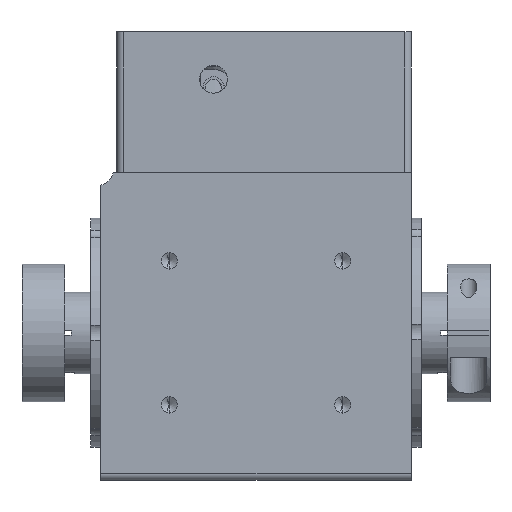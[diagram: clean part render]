
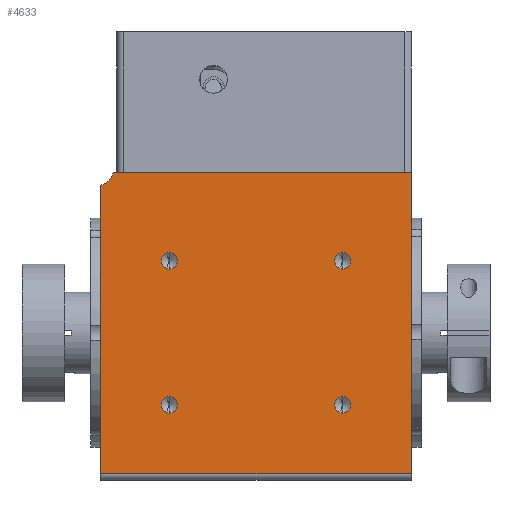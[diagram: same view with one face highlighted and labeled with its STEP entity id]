
A CAD part, front view. The second image highlights one B-rep face of the part: STEP entity #4633.
In plain terms, the highlighted planar face has unit normal (0, -1, 0).
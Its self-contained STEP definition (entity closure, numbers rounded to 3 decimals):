
#344 = VERTEX_POINT ( 'NONE', #19170 ) ;
#379 = VERTEX_POINT ( 'NONE', #6077 ) ;
#754 = CARTESIAN_POINT ( 'NONE',  ( 36.257, -60.486, 67. ) ) ;
#2101 = CIRCLE ( 'NONE', #6797, 2.5 ) ;
#2117 = DIRECTION ( 'NONE',  ( 0., 0., -1. ) ) ;
#2688 = DIRECTION ( 'NONE',  ( 0., -1., 0. ) ) ;
#3399 = CARTESIAN_POINT ( 'NONE',  ( -38.743, -60.486, 95. ) ) ;
#3436 = DIRECTION ( 'NONE',  ( 0., 0., -1. ) ) ;
#3668 = FACE_BOUND ( 'NONE', #8124, .T. ) ;
#4095 = CARTESIAN_POINT ( 'NONE',  ( 57.257, -60.486, 94. ) ) ;
#4241 = EDGE_LOOP ( 'NONE', ( #33720, #34110 ) ) ;
#4470 = EDGE_CURVE ( 'NONE', #19471, #23258, #20425, .T. ) ;
#4633 = ADVANCED_FACE ( 'NONE', ( #17005, #25041, #3668, #24197, #9945 ), #23806, .F. ) ;
#4678 = AXIS2_PLACEMENT_3D ( 'NONE', #26485, #29151, #13125 ) ;
#5039 = DIRECTION ( 'NONE',  ( 0., 0., -1. ) ) ;
#5409 = ORIENTED_EDGE ( 'NONE', *, *, #7472, .F. ) ;
#6077 = CARTESIAN_POINT ( 'NONE',  ( -16.743, -60.486, 25.5 ) ) ;
#6082 = DIRECTION ( 'NONE',  ( 0., 0., -1. ) ) ;
#6437 = AXIS2_PLACEMENT_3D ( 'NONE', #26056, #10020, #28705 ) ;
#6784 = CARTESIAN_POINT ( 'NONE',  ( -16.743, -60.486, 23. ) ) ;
#6793 = ORIENTED_EDGE ( 'NONE', *, *, #31595, .T. ) ;
#6797 = AXIS2_PLACEMENT_3D ( 'NONE', #10569, #29294, #13265 ) ;
#6900 = CIRCLE ( 'NONE', #30536, 2.5 ) ;
#6971 = ORIENTED_EDGE ( 'NONE', *, *, #16258, .F. ) ;
#6989 = DIRECTION ( 'NONE',  ( 0., 0., -1. ) ) ;
#7472 = EDGE_CURVE ( 'NONE', #20088, #21779, #31943, .T. ) ;
#7567 = ORIENTED_EDGE ( 'NONE', *, *, #27339, .F. ) ;
#8124 = EDGE_LOOP ( 'NONE', ( #7567, #12513 ) ) ;
#8175 = EDGE_LOOP ( 'NONE', ( #6971, #29617 ) ) ;
#8362 = ORIENTED_EDGE ( 'NONE', *, *, #13467, .F. ) ;
#9406 = ORIENTED_EDGE ( 'NONE', *, *, #29771, .F. ) ;
#9494 = DIRECTION ( 'NONE',  ( 0., 0., -1. ) ) ;
#9926 = DIRECTION ( 'NONE',  ( 1., 0., 0. ) ) ;
#9945 = FACE_OUTER_BOUND ( 'NONE', #15806, .T. ) ;
#9999 = EDGE_CURVE ( 'NONE', #23258, #19471, #27703, .T. ) ;
#10020 = DIRECTION ( 'NONE',  ( 0., -1., 0. ) ) ;
#10039 = EDGE_CURVE ( 'NONE', #31337, #24907, #11806, .T. ) ;
#10569 = CARTESIAN_POINT ( 'NONE',  ( -16.743, -60.486, 23. ) ) ;
#10873 = LINE ( 'NONE', #28391, #31376 ) ;
#11540 = VECTOR ( 'NONE', #9926, 1000. ) ;
#11806 = CIRCLE ( 'NONE', #33613, 2.5 ) ;
#12513 = ORIENTED_EDGE ( 'NONE', *, *, #21345, .F. ) ;
#12695 = EDGE_CURVE ( 'NONE', #20088, #22397, #27186, .T. ) ;
#12965 = EDGE_CURVE ( 'NONE', #21779, #23447, #33843, .T. ) ;
#12976 = DIRECTION ( 'NONE',  ( 0., -1., 0. ) ) ;
#13125 = DIRECTION ( 'NONE',  ( 0., 0., 1. ) ) ;
#13265 = DIRECTION ( 'NONE',  ( 0., 0., -1. ) ) ;
#13467 = EDGE_CURVE ( 'NONE', #23447, #344, #10873, .T. ) ;
#13573 = AXIS2_PLACEMENT_3D ( 'NONE', #14385, #33095, #17069 ) ;
#14054 = VERTEX_POINT ( 'NONE', #15316 ) ;
#14385 = CARTESIAN_POINT ( 'NONE',  ( -16.743, -60.486, 67. ) ) ;
#15223 = ORIENTED_EDGE ( 'NONE', *, *, #12965, .F. ) ;
#15316 = CARTESIAN_POINT ( 'NONE',  ( -16.743, -60.486, 20.5 ) ) ;
#15806 = EDGE_LOOP ( 'NONE', ( #22067, #6793, #8362, #15223, #5409 ) ) ;
#16069 = AXIS2_PLACEMENT_3D ( 'NONE', #754, #19446, #3436 ) ;
#16258 = EDGE_CURVE ( 'NONE', #28227, #24814, #32908, .T. ) ;
#17005 = FACE_BOUND ( 'NONE', #8175, .T. ) ;
#17069 = DIRECTION ( 'NONE',  ( 0., 0., -1. ) ) ;
#17184 = CARTESIAN_POINT ( 'NONE',  ( -16.743, -60.486, 64.5 ) ) ;
#17246 = DIRECTION ( 'NONE',  ( 1., 0., 0. ) ) ;
#18112 = DIRECTION ( 'NONE',  ( 0., -1., 0. ) ) ;
#18691 = CARTESIAN_POINT ( 'NONE',  ( 36.257, -60.486, 23. ) ) ;
#19161 = CARTESIAN_POINT ( 'NONE',  ( 36.257, -60.486, 20.5 ) ) ;
#19170 = CARTESIAN_POINT ( 'NONE',  ( 57.257, -60.486, 2. ) ) ;
#19280 = AXIS2_PLACEMENT_3D ( 'NONE', #28990, #12976, #31679 ) ;
#19446 = DIRECTION ( 'NONE',  ( 0., -1., 0. ) ) ;
#19471 = VERTEX_POINT ( 'NONE', #23618 ) ;
#20088 = VERTEX_POINT ( 'NONE', #22047 ) ;
#20170 = EDGE_LOOP ( 'NONE', ( #21764, #9406 ) ) ;
#20425 = CIRCLE ( 'NONE', #16069, 2.5 ) ;
#21345 = EDGE_CURVE ( 'NONE', #379, #14054, #2101, .T. ) ;
#21410 = DIRECTION ( 'NONE',  ( 0., 0., -1. ) ) ;
#21764 = ORIENTED_EDGE ( 'NONE', *, *, #10039, .F. ) ;
#21779 = VERTEX_POINT ( 'NONE', #33810 ) ;
#21863 = CARTESIAN_POINT ( 'NONE',  ( -37.743, -60.486, 2. ) ) ;
#22047 = CARTESIAN_POINT ( 'NONE',  ( -37.743, -60.486, 90.101 ) ) ;
#22067 = ORIENTED_EDGE ( 'NONE', *, *, #12695, .T. ) ;
#22123 = DIRECTION ( 'NONE',  ( 0., -1., 0. ) ) ;
#22397 = VERTEX_POINT ( 'NONE', #21863 ) ;
#23258 = VERTEX_POINT ( 'NONE', #29948 ) ;
#23447 = VERTEX_POINT ( 'NONE', #4095 ) ;
#23618 = CARTESIAN_POINT ( 'NONE',  ( 36.257, -60.486, 64.5 ) ) ;
#23771 = CARTESIAN_POINT ( 'NONE',  ( -37.743, -60.486, 94. ) ) ;
#23806 = PLANE ( 'NONE',  #4678 ) ;
#24197 = FACE_BOUND ( 'NONE', #20170, .T. ) ;
#24634 = CIRCLE ( 'NONE', #25245, 2.5 ) ;
#24722 = CARTESIAN_POINT ( 'NONE',  ( -16.743, -60.486, 69.5 ) ) ;
#24814 = VERTEX_POINT ( 'NONE', #24722 ) ;
#24907 = VERTEX_POINT ( 'NONE', #27958 ) ;
#25005 = CIRCLE ( 'NONE', #13573, 2.5 ) ;
#25041 = FACE_BOUND ( 'NONE', #4241, .T. ) ;
#25245 = AXIS2_PLACEMENT_3D ( 'NONE', #18691, #2688, #21410 ) ;
#25541 = DIRECTION ( 'NONE',  ( 0., -1., 0. ) ) ;
#25814 = LINE ( 'NONE', #28614, #11540 ) ;
#25944 = VECTOR ( 'NONE', #17246, 1000. ) ;
#26056 = CARTESIAN_POINT ( 'NONE',  ( -16.743, -60.486, 67. ) ) ;
#26375 = VECTOR ( 'NONE', #5039, 1000. ) ;
#26485 = CARTESIAN_POINT ( 'NONE',  ( -37.743, -60.486, 94. ) ) ;
#27186 = LINE ( 'NONE', #23771, #26375 ) ;
#27339 = EDGE_CURVE ( 'NONE', #14054, #379, #6900, .T. ) ;
#27703 = CIRCLE ( 'NONE', #19280, 2.5 ) ;
#27958 = CARTESIAN_POINT ( 'NONE',  ( 36.257, -60.486, 25.5 ) ) ;
#28227 = VERTEX_POINT ( 'NONE', #17184 ) ;
#28391 = CARTESIAN_POINT ( 'NONE',  ( 57.257, -60.486, 94. ) ) ;
#28614 = CARTESIAN_POINT ( 'NONE',  ( 57.257, -60.486, 2. ) ) ;
#28705 = DIRECTION ( 'NONE',  ( 0., 0., -1. ) ) ;
#28990 = CARTESIAN_POINT ( 'NONE',  ( 36.257, -60.486, 67. ) ) ;
#29151 = DIRECTION ( 'NONE',  ( 0., 1., 0. ) ) ;
#29164 = AXIS2_PLACEMENT_3D ( 'NONE', #3399, #22123, #6082 ) ;
#29294 = DIRECTION ( 'NONE',  ( 0., -1., 0. ) ) ;
#29617 = ORIENTED_EDGE ( 'NONE', *, *, #30943, .F. ) ;
#29771 = EDGE_CURVE ( 'NONE', #24907, #31337, #24634, .T. ) ;
#29948 = CARTESIAN_POINT ( 'NONE',  ( 36.257, -60.486, 69.5 ) ) ;
#30536 = AXIS2_PLACEMENT_3D ( 'NONE', #6784, #25541, #9494 ) ;
#30943 = EDGE_CURVE ( 'NONE', #24814, #28227, #25005, .T. ) ;
#31337 = VERTEX_POINT ( 'NONE', #19161 ) ;
#31376 = VECTOR ( 'NONE', #6989, 1000. ) ;
#31595 = EDGE_CURVE ( 'NONE', #22397, #344, #25814, .T. ) ;
#31679 = DIRECTION ( 'NONE',  ( 0., 0., -1. ) ) ;
#31943 = CIRCLE ( 'NONE', #29164, 5. ) ;
#32908 = CIRCLE ( 'NONE', #6437, 2.5 ) ;
#33095 = DIRECTION ( 'NONE',  ( 0., -1., 0. ) ) ;
#33279 = CARTESIAN_POINT ( 'NONE',  ( -37.743, -60.486, 94. ) ) ;
#33613 = AXIS2_PLACEMENT_3D ( 'NONE', #34120, #18112, #2117 ) ;
#33720 = ORIENTED_EDGE ( 'NONE', *, *, #4470, .F. ) ;
#33810 = CARTESIAN_POINT ( 'NONE',  ( -33.844, -60.486, 94. ) ) ;
#33843 = LINE ( 'NONE', #33279, #25944 ) ;
#34110 = ORIENTED_EDGE ( 'NONE', *, *, #9999, .F. ) ;
#34120 = CARTESIAN_POINT ( 'NONE',  ( 36.257, -60.486, 23. ) ) ;
